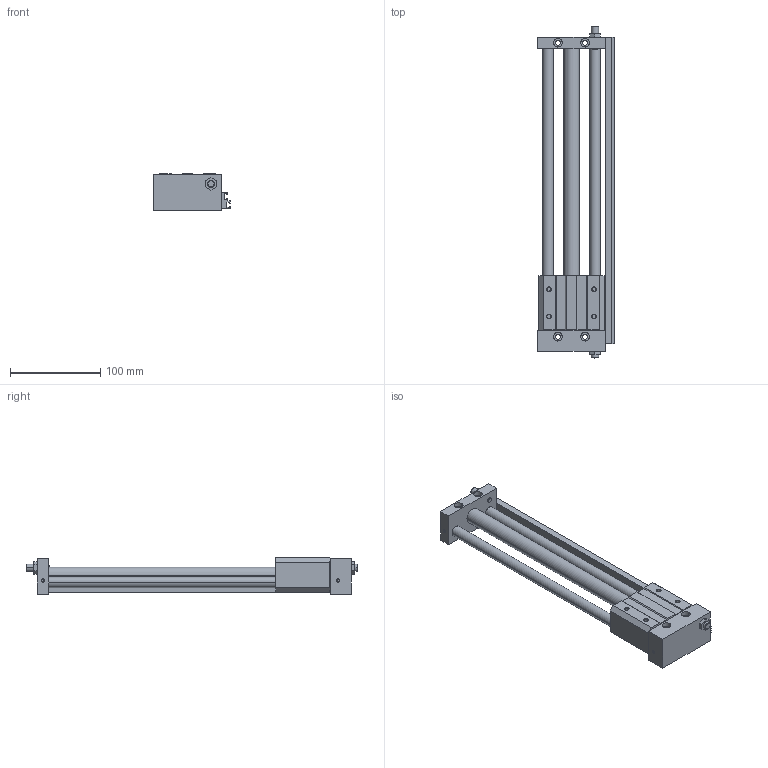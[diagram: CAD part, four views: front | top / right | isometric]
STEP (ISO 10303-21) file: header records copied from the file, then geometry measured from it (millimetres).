
FILE_DESCRIPTION((''),'2;1');
FILE_NAME('C:\Documents and Settings\Administrator\桌面\GYS\GYS15\GYSR15X250.stp','2012-03-05T10:55:27',('Administrator'),(''),'Autodesk Inventor 8','Autodesk Inventor 8','');
FILE_SCHEMA(('AUTOMOTIVE_DESIGN { 1 0 10303 214 1 1 1 1 }'));
Length unit declared in the file: millimetre
Products named in the file (3): GYSR15X250; GYS15X250; GYS15160X250
Assembly tree (2 placements, depth 2):
  GYSR15X250
    GYS15X250
    GYS15160X250
Bounding box: 85 x 367 x 40 mm (x, y, z)
Volume: 408296.8 mm3; surface area: 100037.8 mm2
Topology: 2 solids, 2 shells, 201 faces, 494 edges, 320 vertices
Faces by surface type: plane 107, cylinder 60, cone 28, bspline 6
Entity records: 6100 total; most frequent: CARTESIAN_POINT 1094, DIRECTION 1058, ORIENTED_EDGE 988, EDGE_CURVE 494, AXIS2_PLACEMENT_3D 364, VECTOR 330, LINE 330, VERTEX_POINT 320
